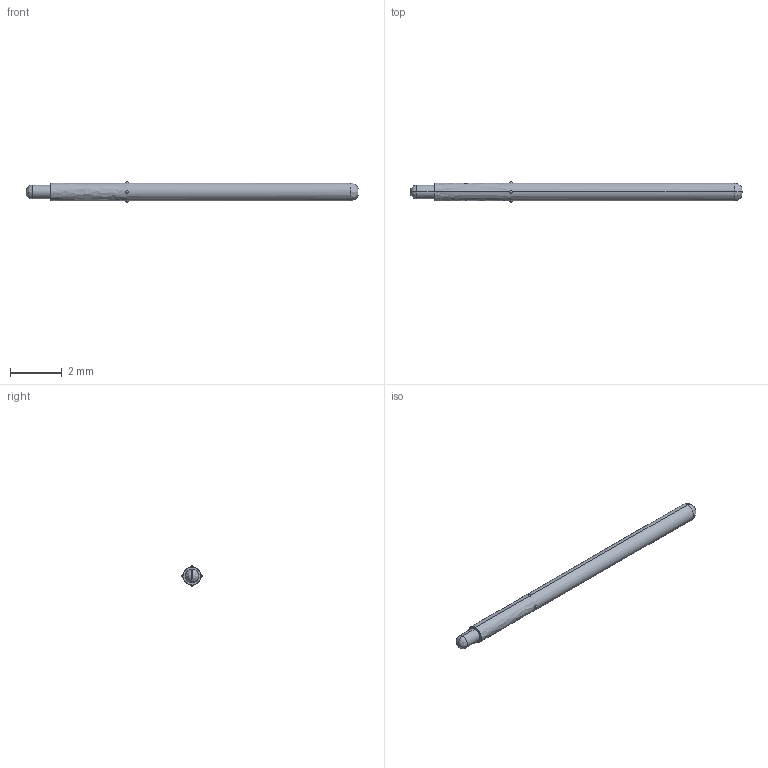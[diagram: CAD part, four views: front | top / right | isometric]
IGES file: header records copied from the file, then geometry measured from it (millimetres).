
Start section: SolidWorks IGES file using analytic representation for surfaces
Global section: file name: O:\PYLON\IGES FILES\P2662B\P2662B-1R1S FULL.IGS; native system: SolidWorks 2015; preprocessor: SolidWorks 2015; author: kgolden; date: 171019.092500; units: inch
Bounding box: 12.85 x 0.79 x 0.79 mm (x, y, z)
Surface area: 30 mm2 (no closed solid volume)
Topology: 0 solids, 0 shells, 21 faces, 192 edges, 176 vertices
Faces by surface type: revolution 14, bspline 7
